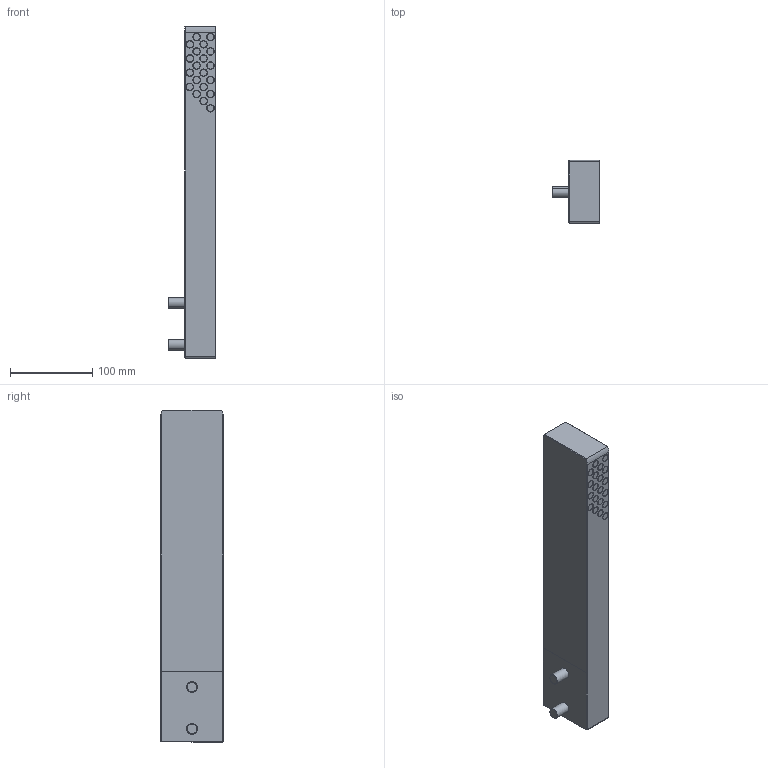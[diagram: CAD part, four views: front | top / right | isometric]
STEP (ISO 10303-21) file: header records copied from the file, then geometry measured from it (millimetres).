
FILE_DESCRIPTION (( 'STEP AP214' ), '1' );
FILE_NAME ('BLB150L16.step', '2018-04-20T15:11:13', ( '' ), ( '' ), 'SwSTEP 2.0', 'SolidWorks 2015', '' );
FILE_SCHEMA (( 'AUTOMOTIVE_DESIGN' ));
Length unit declared in the file: inch
Products named in the file (3): 1-2-13x175 SHCS; BLB150L16
Assembly tree (3 placements, depth 2):
  BLB150L16
    BLB150L16
    1-2-13x175 SHCS  x2
Bounding box: 57.66 x 76.2 x 403.35 mm (x, y, z)
Volume: 1166481.8 mm3; surface area: 107257.5 mm2
Topology: 3 solids, 3 shells, 316 faces, 646 edges, 422 vertices
Faces by surface type: cylinder 184, plane 116, torus 8, cone 8
Entity records: 8136 total; most frequent: DIRECTION 1584, CARTESIAN_POINT 1326, ORIENTED_EDGE 1216, AXIS2_PLACEMENT_3D 676, EDGE_CURVE 608, VERTEX_POINT 398, EDGE_LOOP 386, CIRCLE 372
